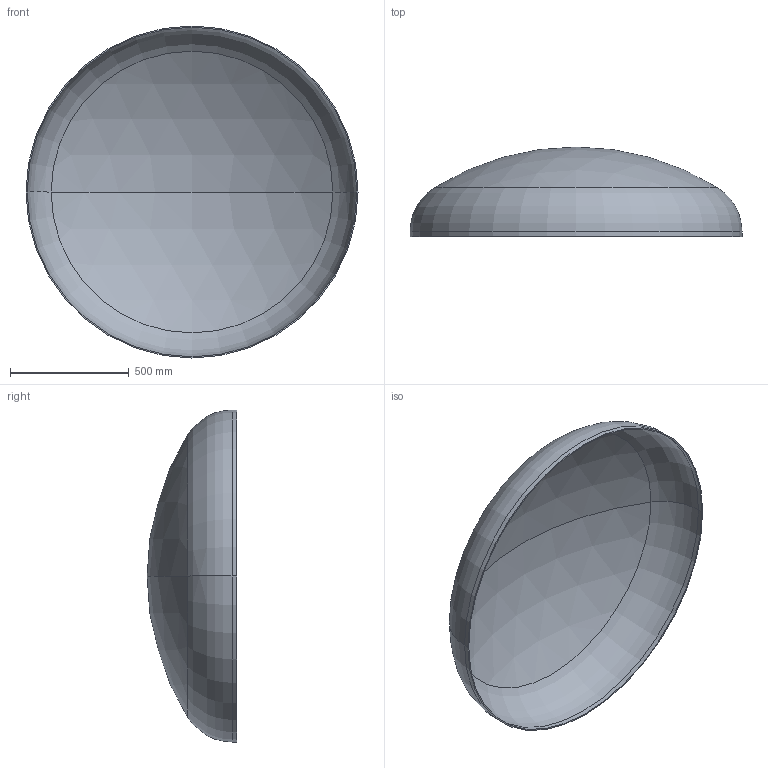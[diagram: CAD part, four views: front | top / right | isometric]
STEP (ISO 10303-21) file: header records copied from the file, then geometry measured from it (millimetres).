
FILE_DESCRIPTION (( 'STEP AP203' ), '1' );
FILE_NAME ('DIN 28013 Korbbogenform_-_Boden DIN 28013 - 1400 x 20 - I - s=5.step', '2016-07-01T10:05:48', ( '' ), ( '' ), 'SwSTEP 2.0', 'SolidWorks 2013', '' );
FILE_SCHEMA (( 'CONFIG_CONTROL_DESIGN' ));
Length unit declared in the file: millimetre
Products named in the file (1): DIN 28013 Korbbogenform_-_Boden DIN 28013 - 1400 x 20 - I - s=5
Bounding box: 1400 x 377.78 x 1400 mm (x, y, z)
Volume: 11043021.7 mm3; surface area: 4439171.9 mm2
Topology: 1 solids, 1 shells, 13 faces, 24 edges, 14 vertices
Faces by surface type: torus 4, cylinder 4, sphere 4, plane 1
Entity records: 407 total; most frequent: DIRECTION 72, CARTESIAN_POINT 52, ORIENTED_EDGE 48, AXIS2_PLACEMENT_3D 34, EDGE_CURVE 24, CIRCLE 20, VERTEX_POINT 14, EDGE_LOOP 14
